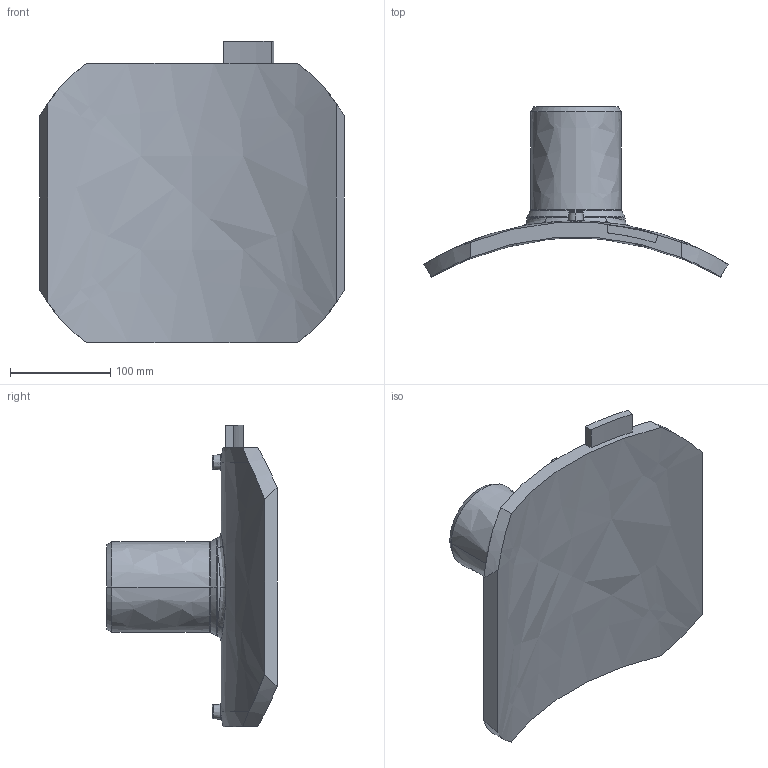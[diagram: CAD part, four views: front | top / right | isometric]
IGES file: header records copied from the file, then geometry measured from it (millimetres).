
Start section:  PTC IGES file: sa-uni_d560_90_01.igs
Global section: file name: sa-uni_d560_90_01.igs; native system: Pro/ENGINEER by Parametric Technology Corporation; preprocessor: 2011490; author: MikulicP; organization: Unknown; date: 20170207.160008; units: millimetre
Bounding box: 303.46 x 169.97 x 301 mm (x, y, z)
Surface area: 250120.6 mm2 (no closed solid volume)
Topology: 0 solids, 0 shells, 216 faces, 1070 edges, 1068 vertices
Faces by surface type: bspline 216
